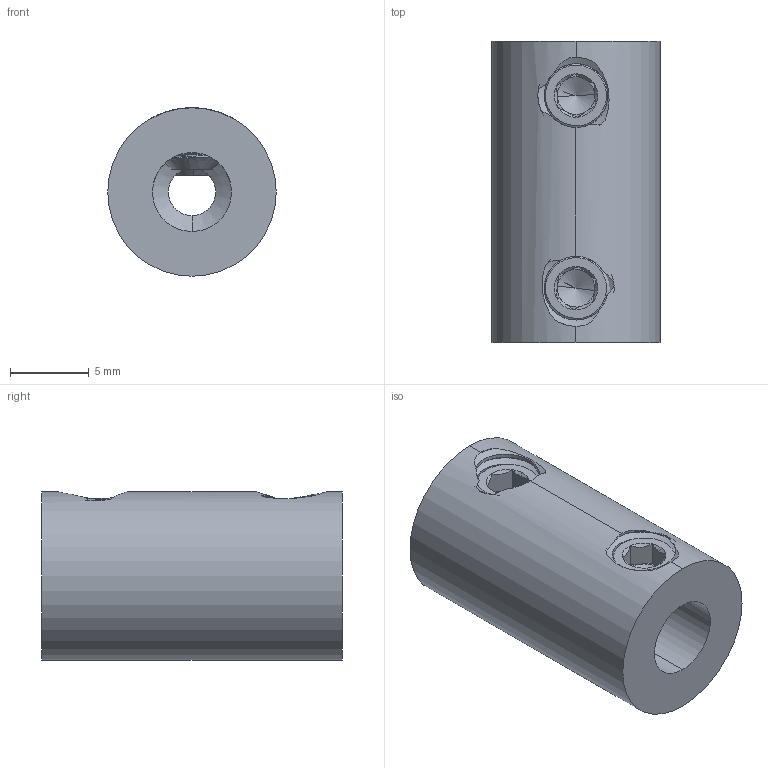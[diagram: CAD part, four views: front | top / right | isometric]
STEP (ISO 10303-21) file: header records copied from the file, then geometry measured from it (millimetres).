
FILE_DESCRIPTION (( 'STEP AP203' ), '1' );
FILE_NAME ('625210 assembly.STEP', '2016-08-26T14:26:23', ( '' ), ( '' ), 'SwSTEP 2.0', 'SolidWorks 2014', '' );
FILE_SCHEMA (( 'CONFIG_CONTROL_DESIGN' ));
Length unit declared in the file: inch
Products named in the file (3): 632134_91375A436; 625210 assembly; 625210
Assembly tree (3 placements, depth 2):
  625210 assembly
    625210
    632134_91375A436  x2
Bounding box: 10.67 x 19.05 x 10.67 mm (x, y, z)
Volume: 1400.3 mm3; surface area: 1338.8 mm2
Topology: 3 solids, 3 shells, 182 faces, 492 edges, 308 vertices
Faces by surface type: cylinder 89, cone 36, plane 30, bspline 27
Entity records: 13792 total; most frequent: CARTESIAN_POINT 10496, ORIENTED_EDGE 800, DIRECTION 426, EDGE_CURVE 400, VERTEX_POINT 259, AXIS2_PLACEMENT_3D 165, EDGE_LOOP 149, FACE_OUTER_BOUND 144
